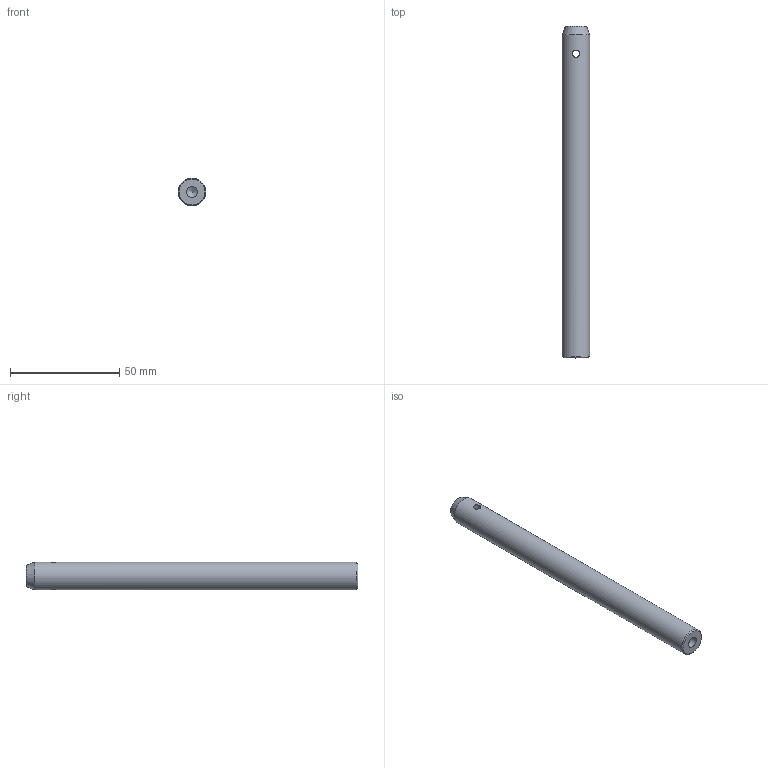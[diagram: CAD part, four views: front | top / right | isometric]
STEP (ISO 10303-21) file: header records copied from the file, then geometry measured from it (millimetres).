
FILE_DESCRIPTION (( 'STEP AP203' ), '1' );
FILE_NAME ('PD-6.step', '2017-01-11T07:22:53', ( '¦K¬P' ), ( '' ), 'SwSTEP 2.0', 'SolidWorks 2012', '' );
FILE_SCHEMA (( 'CONFIG_CONTROL_DESIGN' ));
Length unit declared in the file: millimetre
Products named in the file (1): PD-6
Bounding box: 12.7 x 152 x 12.7 mm (x, y, z)
Volume: 18709.8 mm3; surface area: 6632.6 mm2
Topology: 1 solids, 1 shells, 11 faces, 27 edges, 17 vertices
Faces by surface type: cylinder 4, cone 4, plane 2, torus 1
Full cylindrical faces by diameter (mm): 3.3 x2, 5 x1, 12.7 x1
Entity records: 469 total; most frequent: CARTESIAN_POINT 195, DIRECTION 42, ORIENTED_EDGE 24, EDGE_LOOP 24, AXIS2_PLACEMENT_3D 21, FACE_OUTER_BOUND 16, EDGE_CURVE 12, VERTEX_POINT 12
